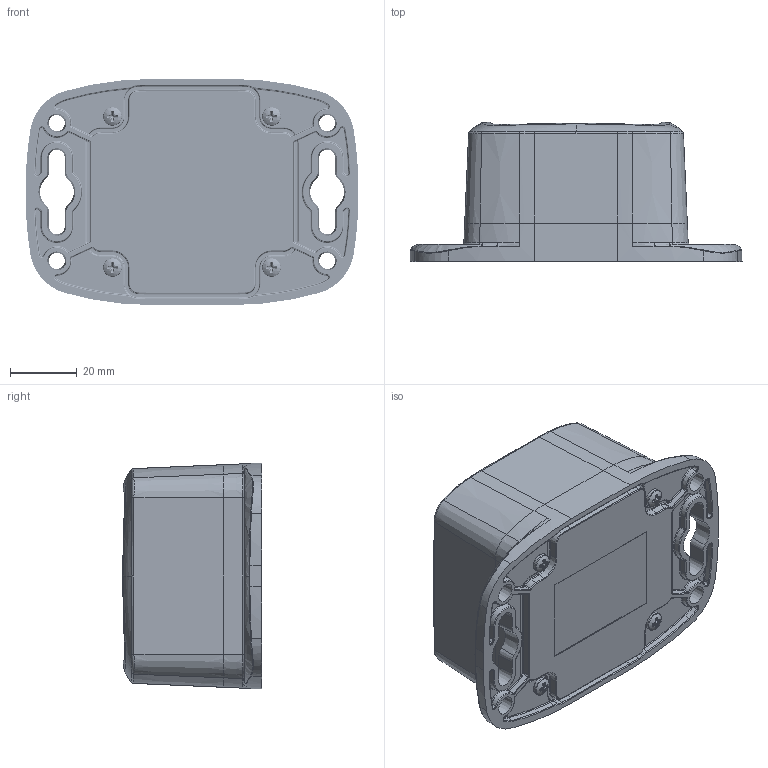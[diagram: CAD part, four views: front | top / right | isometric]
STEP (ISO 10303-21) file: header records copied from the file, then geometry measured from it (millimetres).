
FILE_DESCRIPTION (( 'STEP AP214' ), '1' );
FILE_NAME ('HD-22x.STEP', '2020-09-29T17:21:28', ( '' ), ( '' ), 'SwSTEP 2.0', 'SolidWorks 2016', '' );
FILE_SCHEMA (( 'AUTOMOTIVE_DESIGN' ));
Length unit declared in the file: inch
Products named in the file (5): HD-22xC_HD-22CMBT; GASKET-22_GASKET-22*08; HD-22x; SCREWS-SS7-8_SCREWS-SS7-8; HD-22B_HD-22BFMB
Assembly tree (7 placements, depth 2):
  HD-22x
    HD-22B_HD-22BFMB
    HD-22xC_HD-22CMBT
    GASKET-22_GASKET-22*08
    SCREWS-SS7-8_SCREWS-SS7-8  x4
Bounding box: 99.42 x 41.65 x 67.67 mm (x, y, z)
Volume: 42309.6 mm3; surface area: 56682.5 mm2
Topology: 11 solids, 12 shells, 2172 faces, 4984 edges, 2848 vertices
Faces by surface type: bspline 531, torus 488, cylinder 422, cone 358, plane 337, sphere 36
Full cylindrical faces by diameter (mm): 2.088 x4, 2.261 x4, 2.845 x4, 3.658 x4, 3.683 x8, 3.912 x4, 4.496 x8, 4.75 x4, 5.563 x4
Entity records: 93734 total; most frequent: CARTESIAN_POINT 53344, ORIENTED_EDGE 8480, DIRECTION 8336, EDGE_CURVE 4240, AXIS2_PLACEMENT_3D 3573, VERTEX_POINT 2500, CIRCLE 2129, EDGE_LOOP 2068
